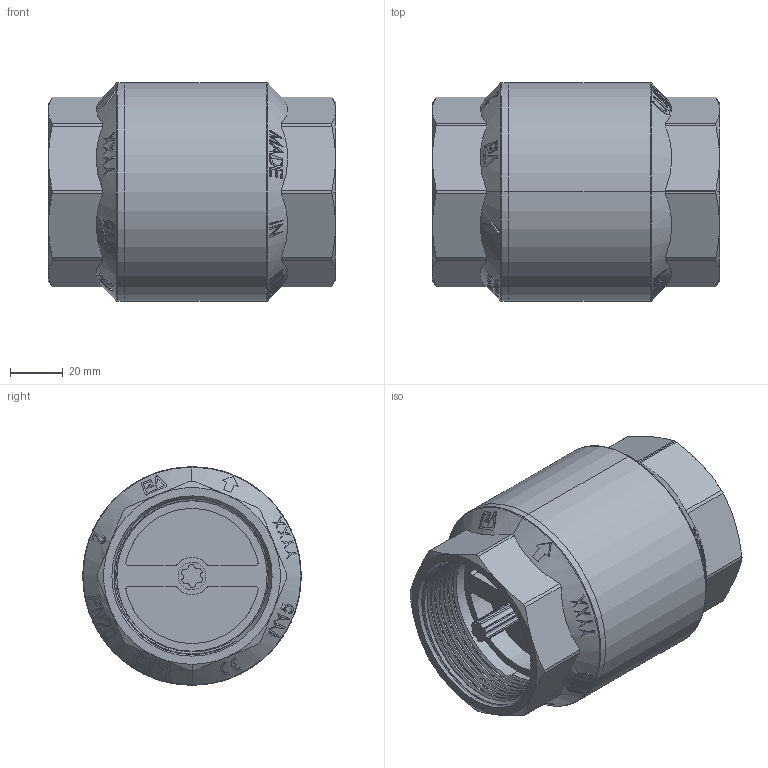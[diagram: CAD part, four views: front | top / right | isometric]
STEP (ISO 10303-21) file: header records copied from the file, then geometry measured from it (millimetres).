
FILE_DESCRIPTION (( 'STEP AP214' ), '1' );
FILE_NAME ('223980.STEP', '2011-07-20T09:24:00', ( ' ' ), ( '' ), 'SwSTEP 2.0', 'SolidWorks 2011', '' );
FILE_SCHEMA (( 'AUTOMOTIVE_DESIGN' ));
Length unit declared in the file: millimetre
Products named in the file (1): 223980
Bounding box: 109 x 83 x 83 mm (x, y, z)
Surface area: 71512.4 mm2 (no closed solid volume)
Topology: 0 solids, 5 shells, 515 faces, 1458 edges, 973 vertices
Faces by surface type: plane 202, cylinder 169, cone 76, bspline 68
Entity records: 28737 total; most frequent: CARTESIAN_POINT 17037, ORIENTED_EDGE 2723, DIRECTION 1836, EDGE_CURVE 1458, VERTEX_POINT 973, AXIS2_PLACEMENT_3D 694, B_SPLINE_CURVE_WITH_KNOTS 692, EDGE_LOOP 562
